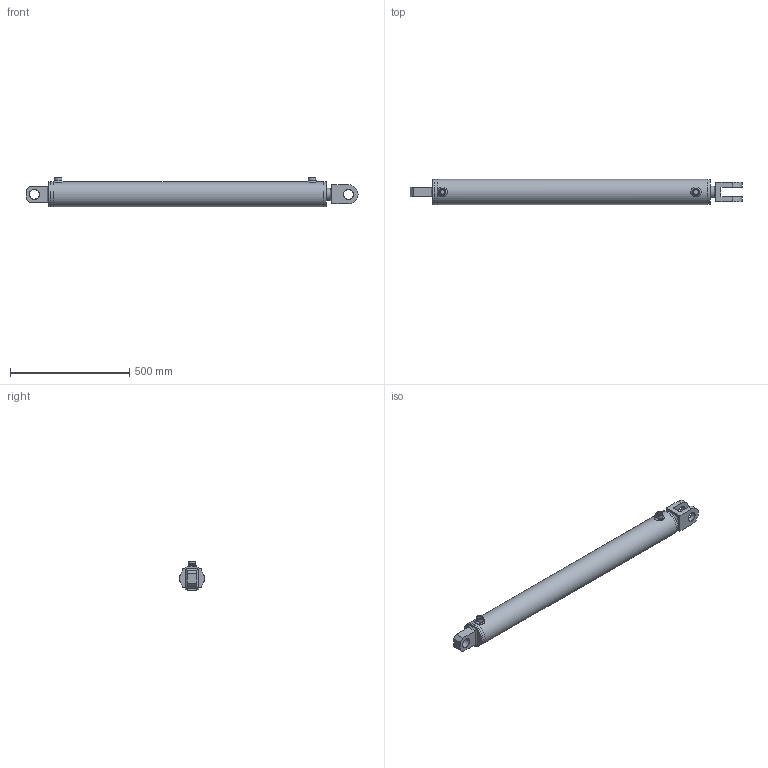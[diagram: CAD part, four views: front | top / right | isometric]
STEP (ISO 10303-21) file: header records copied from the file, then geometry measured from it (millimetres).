
FILE_DESCRIPTION( ( 'Unknown' ), '1' );
FILE_NAME( 'E:/LIBRERIA_3d/CILINDRI/HM5/HM5090501000.stp', 'Unknown', ( 'Unknown' ), ( 'Unknown' ), 'PSStep 17.0.49', 'Unknown', ' ' );
FILE_SCHEMA( ( 'AUTOMOTIVE_DESIGN { 1 0 10303 214 1 1 1 1 }' ) );
Length unit declared in the file: millimetre
Products named in the file (28): CT00090033; STL0901051000-oa7; Saldatura d'angolo 1-oa5; MAT_PRIMA_TUBO_FT10509000-oa6; CBSC220800; CG10509050; HM0090501000; CF00090105; CBS0800000; APG0800000; CDA0003320; Saldatura con preparazione 1-oa3; Saldatura d'angolo 1-oa4; SBL0500901000; Assem1; COF4000000; CFS0000040; Saldatura d'angolo 1-oa0; Saldatura con preparazione 1-oa1; Saldatura d'angolo 2-oa2
Assembly tree (20 placements, depth 4):
  Saldatura d'angolo 1-oa5
  Saldatura d'angolo 1-oa5
  Saldatura d'angolo 1-oa4
  Saldatura d'angolo 1-oa4
  Assem1
    COF4000000
    CFS0000040
    Saldatura con preparazione 1-oa1
    Saldatura con preparazione 1-oa1
    HM0090501000
      CF00090105
      CBS0800000
      APG0800000  x2
      CDA0003320
      Saldatura con preparazione 1-oa3
      Saldatura con preparazione 1-oa3
      SBL0500901000
      CG10509050
        CG10509050
      CT00090033
        CT00090033
      STL0901051000-oa7
        MAT_PRIMA_TUBO_FT10509000-oa6
        CBSC220800
Bounding box: 1391 x 105 x 125 mm (x, y, z)
Volume: 6054036.5 mm3; surface area: 1137311.6 mm2
Topology: 24 solids, 24 shells, 275 faces, 586 edges, 360 vertices
Faces by surface type: plane 90, cylinder 69, cone 46, torus 36, bspline 34
Full cylindrical faces by diameter (mm): 4.25 x3, 8 x2, 12 x1, 18.631 x2, 19.5 x2, 20.95 x2, 26 x2, 30 x2, 32.4 x1, 33 x5, 39.2 x1, 40.25 x3, 50 x10, 53 x3, 58.6 x1, 60 x1, 70 x1, 81.5 x1, 84.15 x2, 88.31 x2, 89.9 x1, 90 x1, 90.3 x1, 90.5 x1, 90.6 x1, 91 x1, 92 x3, 92.835 x1, 95 x1, 104 x1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
Entity records: 12322 total; most frequent: CARTESIAN_POINT 5151, DIRECTION 1020, ORIENTED_EDGE 732, AXIS2_PLACEMENT_3D 469, EDGE_LOOP 467, FACE_OUTER_BOUND 370, EDGE_CURVE 366, VERTEX_POINT 302
